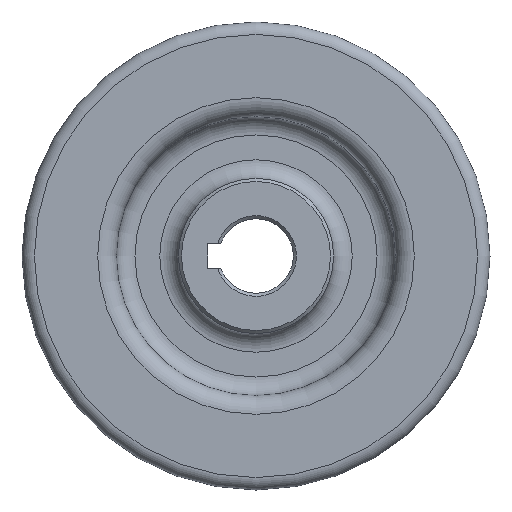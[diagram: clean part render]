
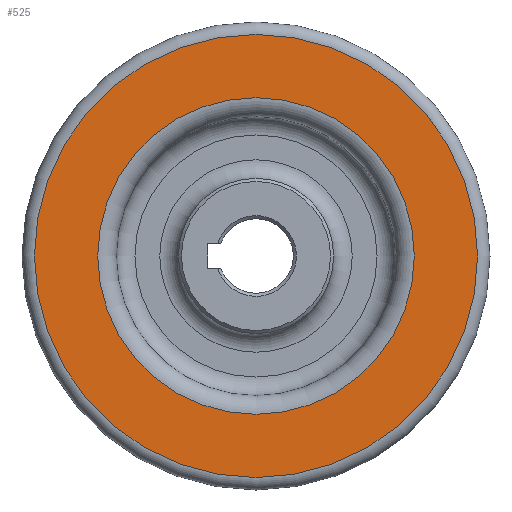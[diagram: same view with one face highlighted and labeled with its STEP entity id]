
A CAD part, left-side view. The second image highlights one B-rep face of the part: STEP entity #525.
In plain terms, the highlighted planar face has unit normal (-1, 0, 0).
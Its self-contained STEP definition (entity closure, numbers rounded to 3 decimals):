
#34=FACE_BOUND('',#106,.T.);
#43=PLANE('',#606);
#69=FACE_OUTER_BOUND('',#105,.T.);
#105=EDGE_LOOP('',(#426));
#106=EDGE_LOOP('',(#427));
#184=CIRCLE('',#602,35.7);
#187=CIRCLE('',#607,25.5);
#245=VERTEX_POINT('',#942);
#248=VERTEX_POINT('',#952);
#309=EDGE_CURVE('',#245,#245,#184,.T.);
#313=EDGE_CURVE('',#248,#248,#187,.T.);
#426=ORIENTED_EDGE('',*,*,#309,.F.);
#427=ORIENTED_EDGE('',*,*,#313,.F.);
#525=ADVANCED_FACE('',(#69,#34),#43,.T.);
#602=AXIS2_PLACEMENT_3D('',#944,#745,#746);
#606=AXIS2_PLACEMENT_3D('',#951,#754,#755);
#607=AXIS2_PLACEMENT_3D('',#953,#756,#757);
#745=DIRECTION('center_axis',(1.,0.,0.));
#746=DIRECTION('ref_axis',(0.,-1.,0.));
#754=DIRECTION('center_axis',(-1.,0.,0.));
#755=DIRECTION('ref_axis',(0.,0.,1.));
#756=DIRECTION('center_axis',(-1.,0.,0.));
#757=DIRECTION('ref_axis',(0.,0.,1.));
#942=CARTESIAN_POINT('',(-9.5,0.,35.7));
#944=CARTESIAN_POINT('Origin',(-9.5,0.,0.));
#951=CARTESIAN_POINT('Origin',(-9.5,18.85,0.));
#952=CARTESIAN_POINT('',(-9.5,0.,25.5));
#953=CARTESIAN_POINT('Origin',(-9.5,0.,0.));
